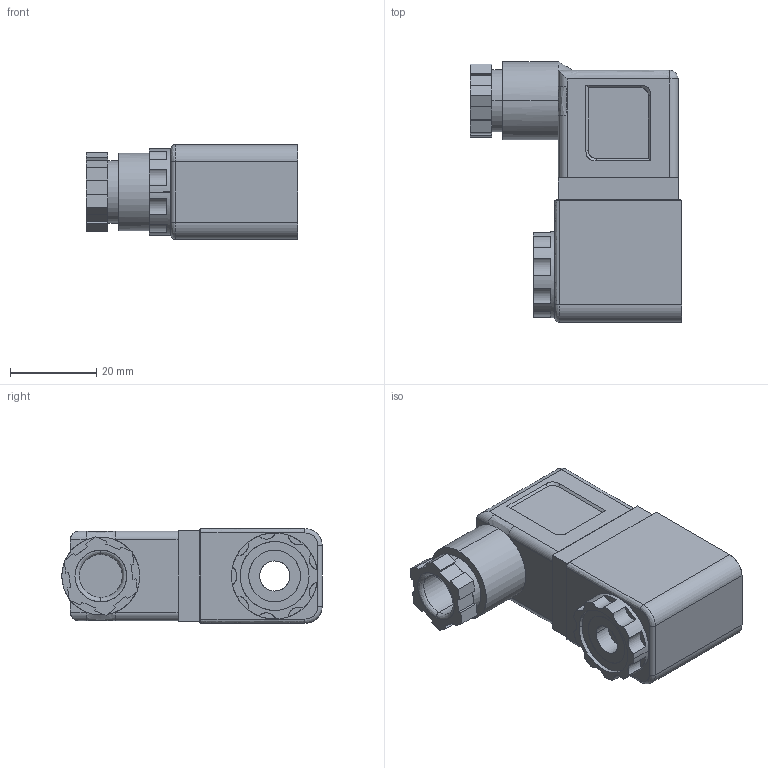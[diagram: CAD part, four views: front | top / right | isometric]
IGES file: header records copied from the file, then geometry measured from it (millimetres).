
Start section: SolidWorks IGES file using analytic representation for surfaces
Bounding box: 49.14 x 60.5 x 22 mm (x, y, z)
Surface area: 10434 mm2 (no closed solid volume)
Topology: 0 solids, 0 shells, 179 faces, 2175 edges, 2171 vertices
Faces by surface type: bspline 105, revolution 74
